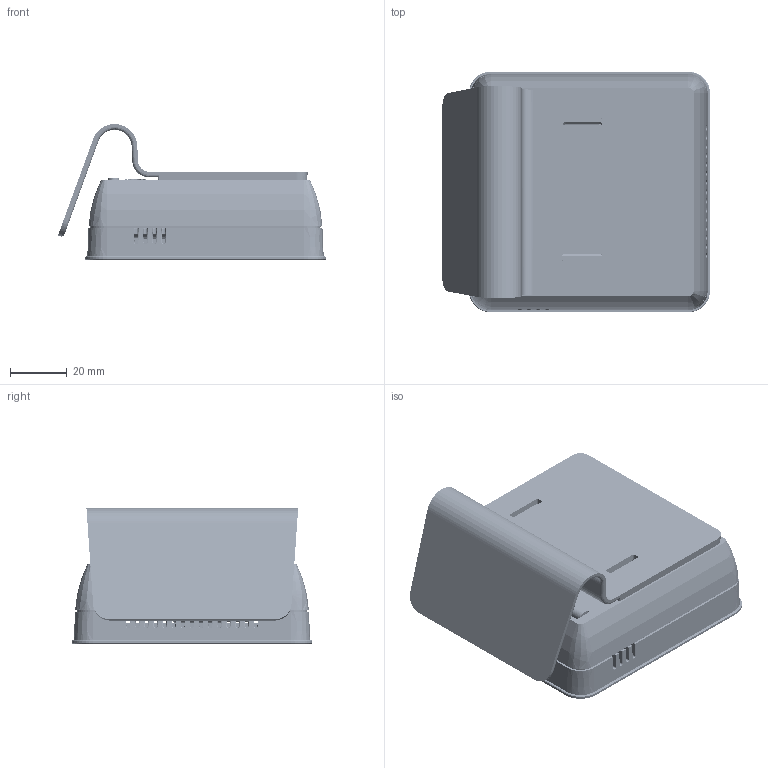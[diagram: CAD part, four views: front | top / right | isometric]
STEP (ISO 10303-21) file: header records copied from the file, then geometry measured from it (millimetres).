
FILE_DESCRIPTION(/* description */ (''),/* implementation_level */ '2;1');
FILE_NAME(/* name */ 'T-3.2_R-8s PLUS.step',/* time_stamp */ '2025-12-08T07:38:40+01:00',/* author */ (''),/* organization */ (''),/* preprocessor_version */ 'ST-DEVELOPER v20.1',/* originating_system */ 'Autodesk Translation Framework v14.21.0.0',/* authorisation */ '');
FILE_SCHEMA (('AUTOMOTIVE_DESIGN { 1 0 10303 214 3 1 1 }'));
Products named in the file (58): T3.2; ST-1003_2_1_R_5mm; Board; Packages; DG332K; ANGLE-SW1-16_1; FIDUCIAL_G10; BLASZKA_LEŻĄCA_+_CUTED; BLASZKA_LEŻĄCA_-_CUTED; ULO-TB51-127/5.0-02P-4100A_STANDARD; PCB_INFO_100MM; G6C-2117P; 2X04_THT_2.00_H6.35; T3.2_1; OP-1004-A; OP-1004-B; SZKŁO; OP-1004-D; S_023.05.000.00057; Op-1004-C; S_023.05.000.00002; Podwujne AA (KEYS5212); AA Batterie; ST-1003_2_2_H; Board_1; Packages_1; NINIGI_1T1206; JP10376-01_1; ENS210_PASTE; SOT95P270X145-6N; DLJ3015; SMD_T7; CAP_TYPE_AK; FIDUCIAL_G10_1; SOD80C; ANGLE-SW1-16_1_1; SO8; 2X04_2MM_SMD; 2X02; NTC-10_1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
Assembly tree (137 placements, depth 4):
  T3.2
    ST-1003_2_1_R_5mm
      Board
      Packages
        DG332K
        ANGLE-SW1-16_1  x4
        FIDUCIAL_G10  x4
        BLASZKA_LEŻĄCA_+_CUTED
        BLASZKA_LEŻĄCA_-_CUTED
        ULO-TB51-127/5.0-02P-4100A_STANDARD
        PCB_INFO_100MM
        G6C-2117P
        2X04_THT_2.00_H6.35
    T3.2_1
      OP-1004-A
      OP-1004-B
      SZKŁO
      OP-1004-D
      S_023.05.000.00057  x4
      Op-1004-C
      S_023.05.000.00002  x3
    Podwujne AA (KEYS5212)
    AA Batterie  x2
    ST-1003_2_2_H
      Board_1
      Packages_1
        NINIGI_1T1206
        JP10376-01_1
        ENS210_PASTE
        SOT95P270X145-6N
        DLJ3015
        SMD_T7  x2
        CAP_TYPE_AK
        FIDUCIAL_G10_1  x2
        SOD80C
        ANGLE-SW1-16_1_1  x2
        SO8
        2X04_2MM_SMD
        2X02
        NTC-10_1
        L0805
        C0805  x3
        C1206  x3
        153CLV-0605  x2
        C0603
        C0805 (1)  x21
        R0805  x34
        RFM22B_S1
        TQFP100_2
        SOT23  x4
        SOT23-BEC  x2
        MICRO3
        1,6/0,6  x4
        5-2,5
    wer
      DG332J-5.0-03P-00A
      DG332K-5.0-03P-00A
    etykiety
Bounding box: 94.04 x 84.58 x 47.69 mm (x, y, z)
Volume: 102670.2 mm3; surface area: 135862.3 mm2
Topology: 161 solids, 161 shells, 8996 faces, 24272 edges, 15820 vertices
Faces by surface type: plane 5915, cylinder 1517, bspline 1046, cone 294, torus 172, sphere 52
Full cylindrical faces by diameter (mm): 0.24 x1, 0.5 x408, 0.527 x1, 0.6 x10, 0.8 x8, 0.9 x32, 1.118 x6, 1.3 x14, 1.4 x2, 1.5 x10, 1.57 x2, 1.6 x3, 1.692 x1, 2.17 x7, 2.2 x33, 2.4 x3, 2.49 x2, 2.5 x6, 2.7 x3, 3.5 x2, 3.7 x2, 3.8 x4, 3.9 x3, 5 x2, 9 x4, 14 x2
Entity records: 309606 total; most frequent: CARTESIAN_POINT 94650, ORIENTED_EDGE 45942, DIRECTION 40201, EDGE_CURVE 22971, LINE 17019, VECTOR 17019, VERTEX_POINT 14973, AXIS2_PLACEMENT_3D 11591
